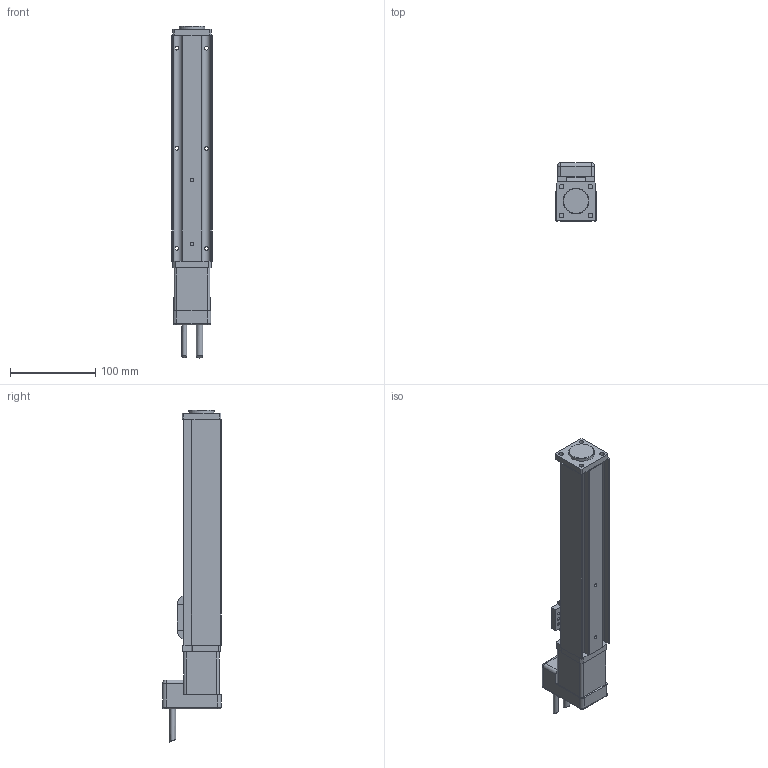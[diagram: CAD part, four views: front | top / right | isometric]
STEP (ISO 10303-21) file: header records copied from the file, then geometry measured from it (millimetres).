
FILE_DESCRIPTION(/* description */ ('Alibre Inc.'),/* implementation_level */ '2;1');
FILE_NAME(/* name */ 'export0',/* time_stamp */ '2011-08-02T10:14:52-04:00',/* author */ (''),/* organization */ (''),/* preprocessor_version */ 'ST-DEVELOPER v10',/* originating_system */ 'Alibre',/* authorisation */ '');
FILE_SCHEMA (('CONFIG_CONTROL_DESIGN'));
Length unit declared in the file: centimetre
Products named in the file (3): ID_1; ID_2
Bounding box: 47 x 68.8 x 389.76 mm (x, y, z)
Volume: 635849.7 mm3; surface area: 94108.5 mm2
Topology: 2 solids, 2 shells, 186 faces, 483 edges, 311 vertices
Faces by surface type: plane 100, cylinder 75, cone 5, torus 4, sphere 2
Full cylindrical faces by diameter (mm): 2.459 x3, 2.5 x1, 3.242 x4, 4 x4, 4.5 x6, 5 x1, 5.5 x5, 7.5 x1, 8 x6, 12 x1, 22 x1, 30 x1
Entity records: 5618 total; most frequent: CARTESIAN_POINT 1080, ORIENTED_EDGE 846, DIRECTION 804, EDGE_CURVE 423, AXIS2_PLACEMENT_3D 325, VERTEX_POINT 296, FACE_BOUND 275, EDGE_LOOP 271
